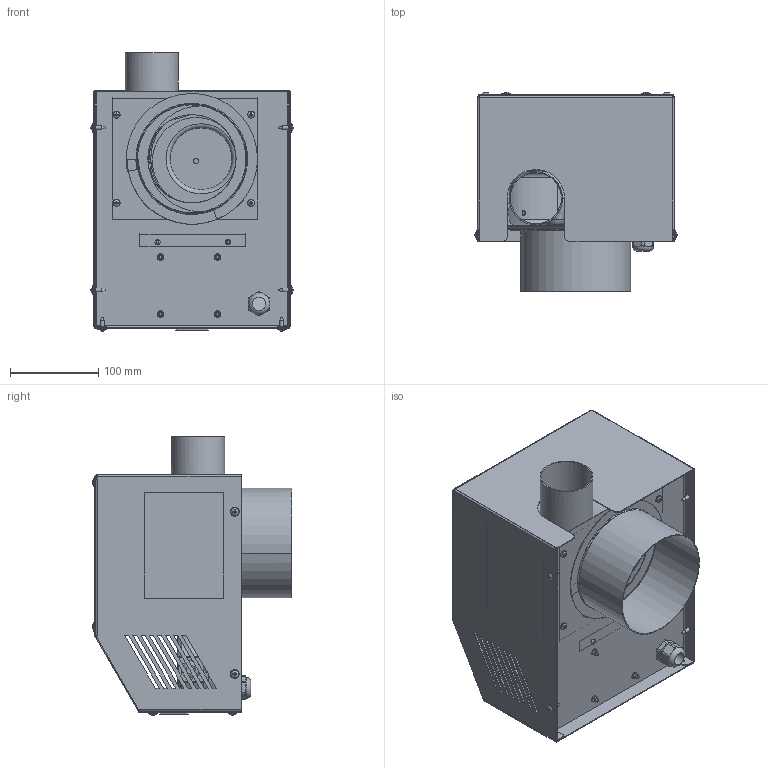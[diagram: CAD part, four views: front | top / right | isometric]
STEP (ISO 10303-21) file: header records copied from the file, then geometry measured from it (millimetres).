
FILE_DESCRIPTION(('STEP AP214'), '1');
FILE_NAME('秜謯鍙僔馯罻 TIATRON TurboMax S175', '2026-06-15T07:37:13', (''), (''), 'ASCON STEP Converter 1.6', 'ASCON Math Kernel', '');
FILE_SCHEMA(('AUTOMOTIVE_DESIGN { 1 0 10303 214 3 1 1}'));
Length unit declared in the file: millimetre
Products named in the file (1): КЕВМ.4260.00.00.000 СБ
Bounding box: 228.9 x 226.14 x 315.22 mm (x, y, z)
Volume: 856579.6 mm3; surface area: 860199 mm2
Topology: 9 solids, 9 shells, 1750 faces, 4453 edges, 2859 vertices
Faces by surface type: plane 949, cylinder 411, bspline 194, cone 92, torus 64, sphere 20, revolution 16, extrusion 4
Full cylindrical faces by diameter (mm): 1.85 x2, 2.459 x4, 3 x6, 3.2 x6, 3.5 x2, 3.6 x4, 4 x5, 4.2 x32, 5.6 x4, 6 x7, 7 x5, 7.5 x4, 8 x6, 9 x5, 10 x13, 11 x3, 15 x9, 16 x1, 16.5 x1, 17 x1, 18 x1, 19 x3, 33.5 x1, 58 x1, 60 x1, 70 x1, 71 x1, 71.4 x1, 79.7 x1, 85.1 x1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
Entity records: 109737 total; most frequent: CARTESIAN_POINT 34401, ORIENTED_EDGE 8434, DIRECTION 8127, EDGE_CURVE 4217, PROPERTY_DEFINITION 4036, PROPERTY_DEFINITION_REPRESENTATION 4036, REPRESENTATION 4036, AXIS2_PLACEMENT_3D 2866
